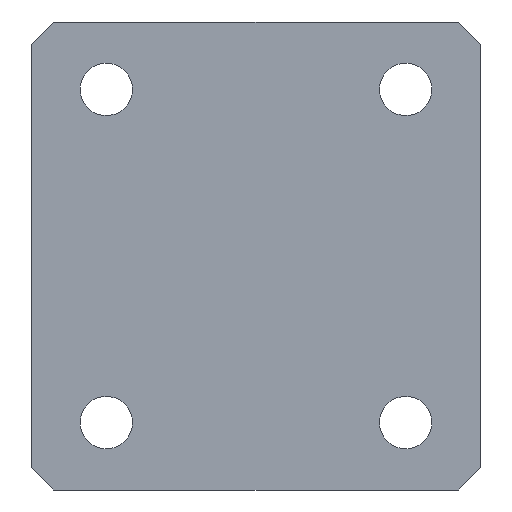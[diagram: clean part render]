
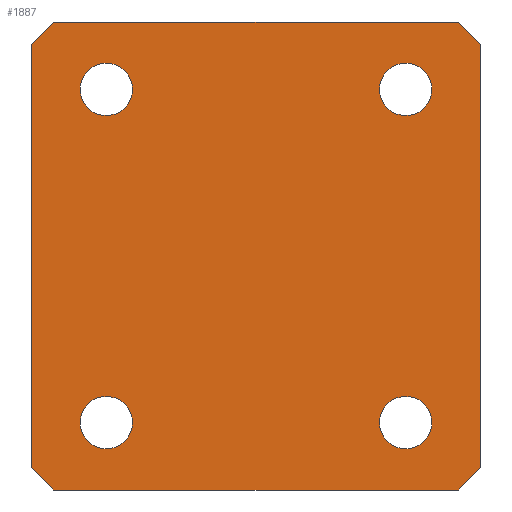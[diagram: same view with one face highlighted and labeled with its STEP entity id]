
A CAD part, left-side view. The second image highlights one B-rep face of the part: STEP entity #1887.
In plain terms, the highlighted planar face has unit normal (-1, 0, 0) as drawn and (0, 0, -1) by its records, which use the part's own axes.
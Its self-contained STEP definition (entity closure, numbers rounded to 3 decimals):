
#7 = CARTESIAN_POINT ( 'NONE',  ( 11., 100., 0. ) ) ;
#13 = CARTESIAN_POINT ( 'NONE',  ( 100., 100., 0. ) ) ;
#24 = CARTESIAN_POINT ( 'NONE',  ( 114., 100., 0. ) ) ;
#25 = LINE ( 'NONE', #1039, #960 ) ;
#26 = EDGE_CURVE ( 'NONE', #1195, #720, #1073, .T. ) ;
#30 = VERTEX_POINT ( 'NONE', #1368 ) ;
#97 = LINE ( 'NONE', #1141, #1382 ) ;
#110 = VERTEX_POINT ( 'NONE', #1265 ) ;
#129 = VERTEX_POINT ( 'NONE', #267 ) ;
#132 = LINE ( 'NONE', #1182, #711 ) ;
#139 = FACE_BOUND ( 'NONE', #860, .T. ) ;
#159 = PLANE ( 'NONE',  #1843 ) ;
#180 = EDGE_CURVE ( 'NONE', #129, #110, #132, .T. ) ;
#192 = DIRECTION ( 'NONE',  ( 1., 0., 0. ) ) ;
#201 = DIRECTION ( 'NONE',  ( 0., 1., 0. ) ) ;
#203 = VERTEX_POINT ( 'NONE', #24 ) ;
#209 = CARTESIAN_POINT ( 'NONE',  ( 0., 6., 0. ) ) ;
#218 = CIRCLE ( 'NONE', #1146, 7. ) ;
#220 = VECTOR ( 'NONE', #619, 1000. ) ;
#232 = CARTESIAN_POINT ( 'NONE',  ( 6., 0., 0. ) ) ;
#248 = DIRECTION ( 'NONE',  ( 0., 0., 1. ) ) ;
#257 = VECTOR ( 'NONE', #981, 1000. ) ;
#267 = CARTESIAN_POINT ( 'NONE',  ( 125., 6., 0. ) ) ;
#273 = LINE ( 'NONE', #439, #257 ) ;
#276 = CARTESIAN_POINT ( 'NONE',  ( 125., 114., 0. ) ) ;
#296 = CARTESIAN_POINT ( 'NONE',  ( 0., 120., 0. ) ) ;
#310 = DIRECTION ( 'NONE',  ( 0., 0., 1. ) ) ;
#366 = LINE ( 'NONE', #952, #836 ) ;
#373 = EDGE_CURVE ( 'NONE', #30, #1475, #1257, .T. ) ;
#404 = ORIENTED_EDGE ( 'NONE', *, *, #716, .T. ) ;
#405 = CARTESIAN_POINT ( 'NONE',  ( 107., 100., 0. ) ) ;
#410 = VECTOR ( 'NONE', #714, 1000. ) ;
#412 = LINE ( 'NONE', #296, #410 ) ;
#417 = ORIENTED_EDGE ( 'NONE', *, *, #1222, .F. ) ;
#421 = EDGE_LOOP ( 'NONE', ( #1131, #1096 ) ) ;
#436 = ORIENTED_EDGE ( 'NONE', *, *, #1400, .T. ) ;
#439 = CARTESIAN_POINT ( 'NONE',  ( 0., 0., 0. ) ) ;
#443 = VECTOR ( 'NONE', #201, 1000. ) ;
#452 = DIRECTION ( 'NONE',  ( -1., 0., 0. ) ) ;
#462 = CARTESIAN_POINT ( 'NONE',  ( 107., 20., 0. ) ) ;
#476 = CIRCLE ( 'NONE', #991, 7. ) ;
#477 = AXIS2_PLACEMENT_3D ( 'NONE', #1206, #310, #488 ) ;
#485 = EDGE_LOOP ( 'NONE', ( #550, #660 ) ) ;
#488 = DIRECTION ( 'NONE',  ( 1., 0., 0. ) ) ;
#490 = DIRECTION ( 'NONE',  ( 1., 0., 0. ) ) ;
#516 = EDGE_CURVE ( 'NONE', #571, #1120, #97, .T. ) ;
#518 = VERTEX_POINT ( 'NONE', #1714 ) ;
#532 = AXIS2_PLACEMENT_3D ( 'NONE', #405, #1132, #1546 ) ;
#549 = DIRECTION ( 'NONE',  ( -0.707, 0.707, 0. ) ) ;
#550 = ORIENTED_EDGE ( 'NONE', *, *, #1861, .T. ) ;
#561 = CARTESIAN_POINT ( 'NONE',  ( 25., 100., 0. ) ) ;
#562 = ORIENTED_EDGE ( 'NONE', *, *, #1009, .T. ) ;
#571 = VERTEX_POINT ( 'NONE', #232 ) ;
#619 = DIRECTION ( 'NONE',  ( 0.707, -0.707, 0. ) ) ;
#624 = VERTEX_POINT ( 'NONE', #1398 ) ;
#648 = ORIENTED_EDGE ( 'NONE', *, *, #26, .T. ) ;
#651 = CIRCLE ( 'NONE', #532, 7. ) ;
#660 = ORIENTED_EDGE ( 'NONE', *, *, #373, .T. ) ;
#688 = DIRECTION ( 'NONE',  ( 0., 0., 1. ) ) ;
#711 = VECTOR ( 'NONE', #739, 1000. ) ;
#714 = DIRECTION ( 'NONE',  ( -1., 0., 0. ) ) ;
#716 = EDGE_CURVE ( 'NONE', #1893, #203, #651, .T. ) ;
#720 = VERTEX_POINT ( 'NONE', #1856 ) ;
#739 = DIRECTION ( 'NONE',  ( -0.707, -0.707, 0. ) ) ;
#746 = CARTESIAN_POINT ( 'NONE',  ( 18., 20., 0. ) ) ;
#750 = EDGE_CURVE ( 'NONE', #811, #1503, #1634, .T. ) ;
#761 = CARTESIAN_POINT ( 'NONE',  ( 119.5, 119.5, 0. ) ) ;
#765 = VERTEX_POINT ( 'NONE', #276 ) ;
#809 = DIRECTION ( 'NONE',  ( 1., 0., 0. ) ) ;
#811 = VERTEX_POINT ( 'NONE', #561 ) ;
#827 = CARTESIAN_POINT ( 'NONE',  ( 125., 0., 0. ) ) ;
#831 = EDGE_CURVE ( 'NONE', #203, #1893, #476, .T. ) ;
#836 = VECTOR ( 'NONE', #1733, 1000. ) ;
#860 = EDGE_LOOP ( 'NONE', ( #562, #648 ) ) ;
#891 = FACE_BOUND ( 'NONE', #421, .T. ) ;
#925 = CARTESIAN_POINT ( 'NONE',  ( 18., 20., 0. ) ) ;
#952 = CARTESIAN_POINT ( 'NONE',  ( 0., 0., 0. ) ) ;
#960 = VECTOR ( 'NONE', #1192, 1000. ) ;
#981 = DIRECTION ( 'NONE',  ( 0., -1., 0. ) ) ;
#991 = AXIS2_PLACEMENT_3D ( 'NONE', #1014, #1007, #1000 ) ;
#1000 = DIRECTION ( 'NONE',  ( 1., 0., 0. ) ) ;
#1007 = DIRECTION ( 'NONE',  ( 0., 0., 1. ) ) ;
#1009 = EDGE_CURVE ( 'NONE', #720, #1195, #218, .T. ) ;
#1014 = CARTESIAN_POINT ( 'NONE',  ( 107., 100., 0. ) ) ;
#1039 = CARTESIAN_POINT ( 'NONE',  ( -57., 57., 0. ) ) ;
#1045 = CARTESIAN_POINT ( 'NONE',  ( 0., 0., 0. ) ) ;
#1062 = EDGE_CURVE ( 'NONE', #1503, #811, #1291, .T. ) ;
#1073 = CIRCLE ( 'NONE', #1379, 7. ) ;
#1078 = CIRCLE ( 'NONE', #477, 7. ) ;
#1082 = DIRECTION ( 'NONE',  ( 1., 0., 0. ) ) ;
#1096 = ORIENTED_EDGE ( 'NONE', *, *, #1062, .T. ) ;
#1108 = EDGE_LOOP ( 'NONE', ( #1269, #404 ) ) ;
#1120 = VERTEX_POINT ( 'NONE', #209 ) ;
#1131 = ORIENTED_EDGE ( 'NONE', *, *, #750, .T. ) ;
#1132 = DIRECTION ( 'NONE',  ( 0., 0., 1. ) ) ;
#1141 = CARTESIAN_POINT ( 'NONE',  ( 3., 3., 0. ) ) ;
#1146 = AXIS2_PLACEMENT_3D ( 'NONE', #746, #1501, #490 ) ;
#1160 = ORIENTED_EDGE ( 'NONE', *, *, #1465, .T. ) ;
#1168 = EDGE_CURVE ( 'NONE', #129, #765, #1560, .T. ) ;
#1182 = CARTESIAN_POINT ( 'NONE',  ( 59.5, -59.5, 0. ) ) ;
#1192 = DIRECTION ( 'NONE',  ( 0.707, 0.707, 0. ) ) ;
#1195 = VERTEX_POINT ( 'NONE', #1522 ) ;
#1200 = AXIS2_PLACEMENT_3D ( 'NONE', #1831, #688, #809 ) ;
#1206 = CARTESIAN_POINT ( 'NONE',  ( 107., 20., 0. ) ) ;
#1222 = EDGE_CURVE ( 'NONE', #571, #110, #366, .T. ) ;
#1257 = CIRCLE ( 'NONE', #1602, 7. ) ;
#1258 = ORIENTED_EDGE ( 'NONE', *, *, #1662, .F. ) ;
#1265 = CARTESIAN_POINT ( 'NONE',  ( 119., 0., 0. ) ) ;
#1269 = ORIENTED_EDGE ( 'NONE', *, *, #831, .T. ) ;
#1270 = DIRECTION ( 'NONE',  ( 1., 0., 0. ) ) ;
#1274 = EDGE_CURVE ( 'NONE', #624, #1858, #412, .T. ) ;
#1291 = CIRCLE ( 'NONE', #1200, 7. ) ;
#1299 = ORIENTED_EDGE ( 'NONE', *, *, #1274, .F. ) ;
#1311 = FACE_OUTER_BOUND ( 'NONE', #1406, .T. ) ;
#1330 = DIRECTION ( 'NONE',  ( 0., 0., -1. ) ) ;
#1333 = CARTESIAN_POINT ( 'NONE',  ( 114., 20., 0. ) ) ;
#1368 = CARTESIAN_POINT ( 'NONE',  ( 100., 20., 0. ) ) ;
#1379 = AXIS2_PLACEMENT_3D ( 'NONE', #925, #1512, #192 ) ;
#1382 = VECTOR ( 'NONE', #549, 1000. ) ;
#1398 = CARTESIAN_POINT ( 'NONE',  ( 119., 120., 0. ) ) ;
#1400 = EDGE_CURVE ( 'NONE', #624, #765, #1900, .T. ) ;
#1406 = EDGE_LOOP ( 'NONE', ( #417, #1816, #1258, #1160, #1299, #436, #1642, #1633 ) ) ;
#1417 = CARTESIAN_POINT ( 'NONE',  ( 18., 100., 0. ) ) ;
#1462 = CARTESIAN_POINT ( 'NONE',  ( 6., 120., 0. ) ) ;
#1465 = EDGE_CURVE ( 'NONE', #518, #1858, #25, .T. ) ;
#1475 = VERTEX_POINT ( 'NONE', #1333 ) ;
#1479 = FACE_BOUND ( 'NONE', #1108, .T. ) ;
#1501 = DIRECTION ( 'NONE',  ( 0., 0., 1. ) ) ;
#1503 = VERTEX_POINT ( 'NONE', #7 ) ;
#1507 = DIRECTION ( 'NONE',  ( 0., 0., 1. ) ) ;
#1508 = AXIS2_PLACEMENT_3D ( 'NONE', #1417, #248, #1270 ) ;
#1512 = DIRECTION ( 'NONE',  ( 0., 0., 1. ) ) ;
#1522 = CARTESIAN_POINT ( 'NONE',  ( 11., 20., 0. ) ) ;
#1546 = DIRECTION ( 'NONE',  ( 1., 0., 0. ) ) ;
#1560 = LINE ( 'NONE', #827, #443 ) ;
#1602 = AXIS2_PLACEMENT_3D ( 'NONE', #462, #1507, #1082 ) ;
#1607 = FACE_BOUND ( 'NONE', #485, .T. ) ;
#1633 = ORIENTED_EDGE ( 'NONE', *, *, #180, .T. ) ;
#1634 = CIRCLE ( 'NONE', #1508, 7. ) ;
#1642 = ORIENTED_EDGE ( 'NONE', *, *, #1168, .F. ) ;
#1662 = EDGE_CURVE ( 'NONE', #518, #1120, #273, .T. ) ;
#1714 = CARTESIAN_POINT ( 'NONE',  ( 0., 114., 0. ) ) ;
#1733 = DIRECTION ( 'NONE',  ( 1., 0., 0. ) ) ;
#1816 = ORIENTED_EDGE ( 'NONE', *, *, #516, .T. ) ;
#1831 = CARTESIAN_POINT ( 'NONE',  ( 18., 100., 0. ) ) ;
#1843 = AXIS2_PLACEMENT_3D ( 'NONE', #1045, #1330, #452 ) ;
#1856 = CARTESIAN_POINT ( 'NONE',  ( 25., 20., 0. ) ) ;
#1858 = VERTEX_POINT ( 'NONE', #1462 ) ;
#1861 = EDGE_CURVE ( 'NONE', #1475, #30, #1078, .T. ) ;
#1887 = ADVANCED_FACE ( 'NONE', ( #1607, #139, #1311, #891, #1479 ), #159, .T. ) ;
#1893 = VERTEX_POINT ( 'NONE', #13 ) ;
#1900 = LINE ( 'NONE', #761, #220 ) ;
